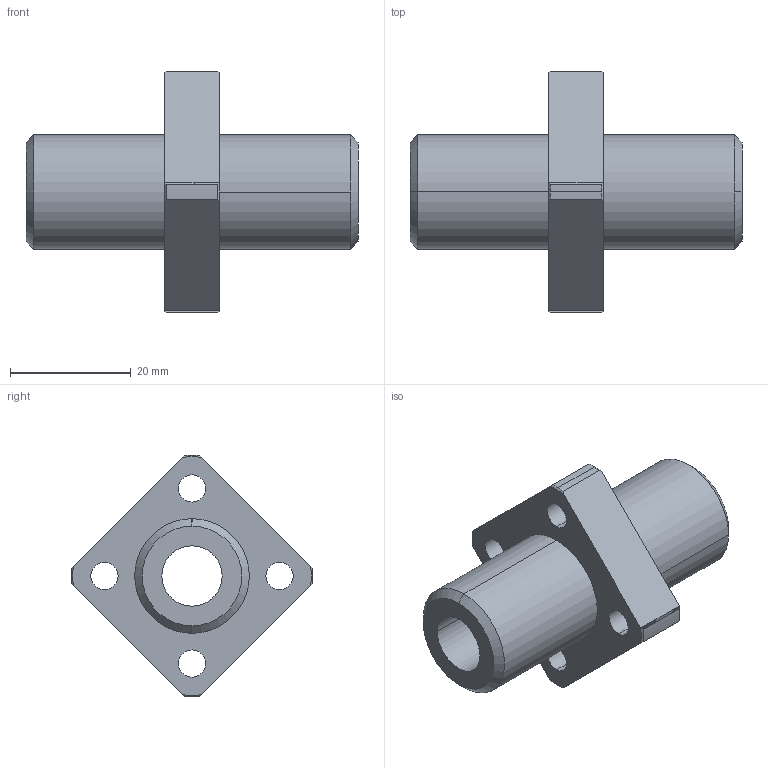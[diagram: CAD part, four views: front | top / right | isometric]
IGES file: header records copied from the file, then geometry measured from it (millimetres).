
Start section: 3D InterOp IGES (Version 21 0 1), Spatial Corp. Copyright (c) 1999-2007.
Global section: file name: CFPJ10.igs; native system: Spatial Corp.; preprocessor: 3D InterOp GENERIC/IGES 3.0; author: Noname; organization: Noname; date: 20220324.130335; units: millimetre
Bounding box: 55 x 39.99 x 40 mm (x, y, z)
Surface area: 7592.4 mm2 (no closed solid volume)
Topology: 0 solids, 0 shells, 53 faces, 264 edges, 264 vertices
Faces by surface type: revolution 41, extrusion 12
